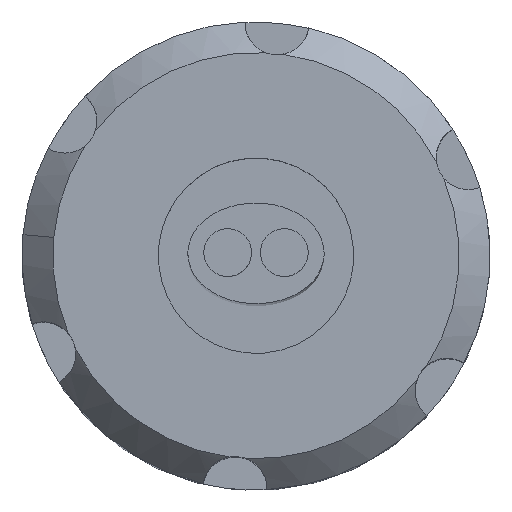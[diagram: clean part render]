
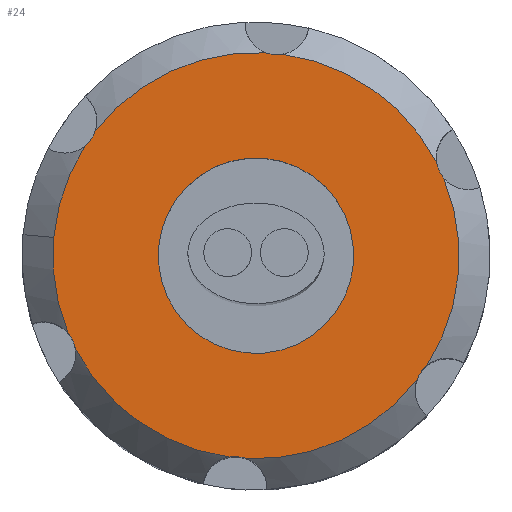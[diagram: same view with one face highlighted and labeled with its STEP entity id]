
A CAD part, top view. The second image highlights one B-rep face of the part: STEP entity #24.
In plain terms, the highlighted planar face has unit normal (0, 0, 1).
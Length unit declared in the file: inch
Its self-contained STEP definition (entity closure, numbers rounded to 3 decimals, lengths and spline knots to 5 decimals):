
#24 = ADVANCED_FACE ( 'NONE', ( #2269, #2266 ), #373, .T. ) ;
#197 = DIRECTION ( 'NONE',  ( 0.996, -0.09, 0. ) ) ;
#198 = CARTESIAN_POINT ( 'NONE',  ( 0.04094, 0.45315, 3.51748 ) ) ;
#209 = DIRECTION ( 'NONE',  ( 0., 0., 1. ) ) ;
#285 = DIRECTION ( 'NONE',  ( 0.996, -0.09, 0. ) ) ;
#296 = DIRECTION ( 'NONE',  ( 0., 0., 1. ) ) ;
#297 = CARTESIAN_POINT ( 'NONE',  ( 0., 0., 3.51748 ) ) ;
#300 = DIRECTION ( 'NONE',  ( 0., 0., 1. ) ) ;
#352 = CARTESIAN_POINT ( 'NONE',  ( 0., 0., 3.51748 ) ) ;
#373 = PLANE ( 'NONE',  #1503 ) ;
#377 = CARTESIAN_POINT ( 'NONE',  ( 0.0171, 0.18923, 3.51748 ) ) ;
#381 = DIRECTION ( 'NONE',  ( 0., 0., 1. ) ) ;
#439 = CARTESIAN_POINT ( 'NONE',  ( 0., 0., 3.51748 ) ) ;
#586 = DIRECTION ( 'NONE',  ( 0.996, -0.09, 0. ) ) ;
#592 = DIRECTION ( 'NONE',  ( 0., 0., 1. ) ) ;
#597 = DIRECTION ( 'NONE',  ( 0.996, -0.09, 0. ) ) ;
#763 = DIRECTION ( 'NONE',  ( 0.996, -0.09, 0. ) ) ;
#798 = CIRCLE ( 'NONE', #1369, 0.395 ) ;
#799 = CIRCLE ( 'NONE', #1374, 0.395 ) ;
#885 = CIRCLE ( 'NONE', #1314, 0.0625 ) ;
#894 = CIRCLE ( 'NONE', #1313, 0.395 ) ;
#974 = CIRCLE ( 'NONE', #1344, 0.0625 ) ;
#1034 = ORIENTED_EDGE ( 'NONE', *, *, #1262, .F. ) ;
#1036 = ORIENTED_EDGE ( 'NONE', *, *, #1601, .T. ) ;
#1043 = ORIENTED_EDGE ( 'NONE', *, *, #1285, .T. ) ;
#1044 = ORIENTED_EDGE ( 'NONE', *, *, #1662, .F. ) ;
#1091 = ORIENTED_EDGE ( 'NONE', *, *, #1636, .T. ) ;
#1093 = ORIENTED_EDGE ( 'NONE', *, *, #1259, .T. ) ;
#1101 = ORIENTED_EDGE ( 'NONE', *, *, #1652, .F. ) ;
#1105 = ORIENTED_EDGE ( 'NONE', *, *, #1620, .F. ) ;
#1106 = ORIENTED_EDGE ( 'NONE', *, *, #1668, .T. ) ;
#1137 = ORIENTED_EDGE ( 'NONE', *, *, #1597, .F. ) ;
#1140 = ORIENTED_EDGE ( 'NONE', *, *, #1649, .T. ) ;
#1155 = ORIENTED_EDGE ( 'NONE', *, *, #1653, .F. ) ;
#1158 = ORIENTED_EDGE ( 'NONE', *, *, #1607, .F. ) ;
#1186 = ORIENTED_EDGE ( 'NONE', *, *, #1651, .F. ) ;
#1189 = ORIENTED_EDGE ( 'NONE', *, *, #1279, .T. ) ;
#1259 = EDGE_CURVE ( 'NONE', #1936, #1940, #1709, .T. ) ;
#1262 = EDGE_CURVE ( 'NONE', #1909, #1906, #1682, .T. ) ;
#1279 = EDGE_CURVE ( 'NONE', #1769, #1939, #799, .T. ) ;
#1285 = EDGE_CURVE ( 'NONE', #1914, #1757, #798, .T. ) ;
#1313 = AXIS2_PLACEMENT_3D ( 'NONE', #2182, #2172, #2171 ) ;
#1314 = AXIS2_PLACEMENT_3D ( 'NONE', #2004, #2160, #2173 ) ;
#1319 = AXIS2_PLACEMENT_3D ( 'NONE', #2559, #2455, #2446 ) ;
#1320 = AXIS2_PLACEMENT_3D ( 'NONE', #2496, #2495, #2494 ) ;
#1321 = AXIS2_PLACEMENT_3D ( 'NONE', #2355, #2354, #2353 ) ;
#1322 = AXIS2_PLACEMENT_3D ( 'NONE', #2364, #2366, #2365 ) ;
#1327 = AXIS2_PLACEMENT_3D ( 'NONE', #2469, #2470, #2471 ) ;
#1335 = AXIS2_PLACEMENT_3D ( 'NONE', #2414, #2415, #2422 ) ;
#1344 = AXIS2_PLACEMENT_3D ( 'NONE', #2556, #2545, #2518 ) ;
#1347 = AXIS2_PLACEMENT_3D ( 'NONE', #2360, #2488, #2520 ) ;
#1348 = AXIS2_PLACEMENT_3D ( 'NONE', #2542, #2527, #2428 ) ;
#1369 = AXIS2_PLACEMENT_3D ( 'NONE', #297, #296, #285 ) ;
#1374 = AXIS2_PLACEMENT_3D ( 'NONE', #352, #209, #597 ) ;
#1383 = AXIS2_PLACEMENT_3D ( 'NONE', #198, #300, #586 ) ;
#1384 = AXIS2_PLACEMENT_3D ( 'NONE', #439, #592, #763 ) ;
#1503 = AXIS2_PLACEMENT_3D ( 'NONE', #377, #381, #197 ) ;
#1597 = EDGE_CURVE ( 'NONE', #1752, #1770, #2600, .T. ) ;
#1601 = EDGE_CURVE ( 'NONE', #1909, #1941, #2604, .T. ) ;
#1607 = EDGE_CURVE ( 'NONE', #1769, #1762, #974, .T. ) ;
#1620 = EDGE_CURVE ( 'NONE', #1920, #1868, #2607, .T. ) ;
#1636 = EDGE_CURVE ( 'NONE', #1757, #1762, #2322, .T. ) ;
#1649 = EDGE_CURVE ( 'NONE', #1948, #1868, #2312, .T. ) ;
#1651 = EDGE_CURVE ( 'NONE', #1936, #1939, #1707, .T. ) ;
#1652 = EDGE_CURVE ( 'NONE', #1948, #1940, #2329, .T. ) ;
#1653 = EDGE_CURVE ( 'NONE', #1770, #1752, #1673, .T. ) ;
#1662 = EDGE_CURVE ( 'NONE', #1914, #1941, #885, .T. ) ;
#1668 = EDGE_CURVE ( 'NONE', #1920, #1906, #894, .T. ) ;
#1673 = CIRCLE ( 'NONE', #1319, 0.19 ) ;
#1682 = CIRCLE ( 'NONE', #1383, 0.0625 ) ;
#1707 = CIRCLE ( 'NONE', #1321, 0.0625 ) ;
#1709 = CIRCLE ( 'NONE', #1384, 0.395 ) ;
#1752 = VERTEX_POINT ( 'NONE', #2096 ) ;
#1757 = VERTEX_POINT ( 'NONE', #2193 ) ;
#1762 = VERTEX_POINT ( 'NONE', #2020 ) ;
#1769 = VERTEX_POINT ( 'NONE', #2101 ) ;
#1770 = VERTEX_POINT ( 'NONE', #2194 ) ;
#1788 = EDGE_LOOP ( 'NONE', ( #1101, #1140, #1105, #1106, #1034, #1036, #1044, #1043, #1091, #1158, #1189, #1186, #1093 ) ) ;
#1806 = EDGE_LOOP ( 'NONE', ( #1155, #1137 ) ) ;
#1868 = VERTEX_POINT ( 'NONE', #2190 ) ;
#1906 = VERTEX_POINT ( 'NONE', #2126 ) ;
#1909 = VERTEX_POINT ( 'NONE', #2144 ) ;
#1914 = VERTEX_POINT ( 'NONE', #2138 ) ;
#1920 = VERTEX_POINT ( 'NONE', #2117 ) ;
#1936 = VERTEX_POINT ( 'NONE', #2058 ) ;
#1939 = VERTEX_POINT ( 'NONE', #2038 ) ;
#1940 = VERTEX_POINT ( 'NONE', #2034 ) ;
#1941 = VERTEX_POINT ( 'NONE', #2109 ) ;
#1948 = VERTEX_POINT ( 'NONE', #2056 ) ;
#2004 = CARTESIAN_POINT ( 'NONE',  ( -0.37197, 0.26203, 3.51748 ) ) ;
#2020 = CARTESIAN_POINT ( 'NONE',  ( -0.36501, -0.15098, 3.51748 ) ) ;
#2034 = CARTESIAN_POINT ( 'NONE',  ( 0.31326, -0.24061, 3.51748 ) ) ;
#2038 = CARTESIAN_POINT ( 'NONE',  ( -0.05175, -0.3916, 3.51748 ) ) ;
#2056 = CARTESIAN_POINT ( 'NONE',  ( 0.33203, -0.21396, 3.51748 ) ) ;
#2058 = CARTESIAN_POINT ( 'NONE',  ( -0.01928, -0.39453, 3.51748 ) ) ;
#2096 = CARTESIAN_POINT ( 'NONE',  ( -0.18923, 0.0171, 3.51748 ) ) ;
#2101 = CARTESIAN_POINT ( 'NONE',  ( -0.35131, -0.18057, 3.51748 ) ) ;
#2109 = CARTESIAN_POINT ( 'NONE',  ( -0.31326, 0.24061, 3.51748 ) ) ;
#2117 = CARTESIAN_POINT ( 'NONE',  ( 0.35131, 0.18057, 3.51748 ) ) ;
#2126 = CARTESIAN_POINT ( 'NONE',  ( 0.05175, 0.3916, 3.51748 ) ) ;
#2138 = CARTESIAN_POINT ( 'NONE',  ( -0.33203, 0.21396, 3.51748 ) ) ;
#2144 = CARTESIAN_POINT ( 'NONE',  ( 0.01928, 0.39453, 3.51748 ) ) ;
#2160 = DIRECTION ( 'NONE',  ( 0., 0., 1. ) ) ;
#2171 = DIRECTION ( 'NONE',  ( 0.996, -0.09, 0. ) ) ;
#2172 = DIRECTION ( 'NONE',  ( 0., 0., 1. ) ) ;
#2173 = DIRECTION ( 'NONE',  ( 0.996, -0.09, 0. ) ) ;
#2182 = CARTESIAN_POINT ( 'NONE',  ( 0., 0., 3.51748 ) ) ;
#2190 = CARTESIAN_POINT ( 'NONE',  ( 0.36501, 0.15098, 3.51748 ) ) ;
#2193 = CARTESIAN_POINT ( 'NONE',  ( -0.3934, 0.03554, 3.51748 ) ) ;
#2194 = CARTESIAN_POINT ( 'NONE',  ( 0.18923, -0.0171, 3.51748 ) ) ;
#2266 = FACE_BOUND ( 'NONE', #1806, .T. ) ;
#2269 = FACE_OUTER_BOUND ( 'NONE', #1788, .T. ) ;
#2312 = CIRCLE ( 'NONE', #1322, 0.395 ) ;
#2322 = CIRCLE ( 'NONE', #1327, 0.395 ) ;
#2329 = CIRCLE ( 'NONE', #1320, 0.0625 ) ;
#2353 = DIRECTION ( 'NONE',  ( 0.996, -0.09, 0. ) ) ;
#2354 = DIRECTION ( 'NONE',  ( 0., 0., 1. ) ) ;
#2355 = CARTESIAN_POINT ( 'NONE',  ( -0.04094, -0.45315, 3.51748 ) ) ;
#2360 = CARTESIAN_POINT ( 'NONE',  ( 0., 0., 3.51748 ) ) ;
#2364 = CARTESIAN_POINT ( 'NONE',  ( 0., 0., 3.51748 ) ) ;
#2365 = DIRECTION ( 'NONE',  ( 0.996, -0.09, 0. ) ) ;
#2366 = DIRECTION ( 'NONE',  ( 0., 0., 1. ) ) ;
#2414 = CARTESIAN_POINT ( 'NONE',  ( 0.41291, 0.19112, 3.51748 ) ) ;
#2415 = DIRECTION ( 'NONE',  ( 0., 0., 1. ) ) ;
#2422 = DIRECTION ( 'NONE',  ( 0.996, -0.09, 0. ) ) ;
#2428 = DIRECTION ( 'NONE',  ( 0.996, -0.09, 0. ) ) ;
#2446 = DIRECTION ( 'NONE',  ( 0.996, -0.09, 0. ) ) ;
#2455 = DIRECTION ( 'NONE',  ( 0., 0., 1. ) ) ;
#2469 = CARTESIAN_POINT ( 'NONE',  ( 0., 0., 3.51748 ) ) ;
#2470 = DIRECTION ( 'NONE',  ( 0., 0., 1. ) ) ;
#2471 = DIRECTION ( 'NONE',  ( 0.996, -0.09, 0. ) ) ;
#2488 = DIRECTION ( 'NONE',  ( 0., 0., 1. ) ) ;
#2494 = DIRECTION ( 'NONE',  ( 0.996, -0.09, 0. ) ) ;
#2495 = DIRECTION ( 'NONE',  ( 0., 0., 1. ) ) ;
#2496 = CARTESIAN_POINT ( 'NONE',  ( 0.37197, -0.26203, 3.51748 ) ) ;
#2518 = DIRECTION ( 'NONE',  ( 0.996, -0.09, 0. ) ) ;
#2520 = DIRECTION ( 'NONE',  ( 0.996, -0.09, 0. ) ) ;
#2527 = DIRECTION ( 'NONE',  ( 0., 0., 1. ) ) ;
#2542 = CARTESIAN_POINT ( 'NONE',  ( 0., 0., 3.51748 ) ) ;
#2545 = DIRECTION ( 'NONE',  ( 0., 0., 1. ) ) ;
#2556 = CARTESIAN_POINT ( 'NONE',  ( -0.41291, -0.19112, 3.51748 ) ) ;
#2559 = CARTESIAN_POINT ( 'NONE',  ( 0., 0., 3.51748 ) ) ;
#2600 = CIRCLE ( 'NONE', #1348, 0.19 ) ;
#2604 = CIRCLE ( 'NONE', #1347, 0.395 ) ;
#2607 = CIRCLE ( 'NONE', #1335, 0.0625 ) ;
